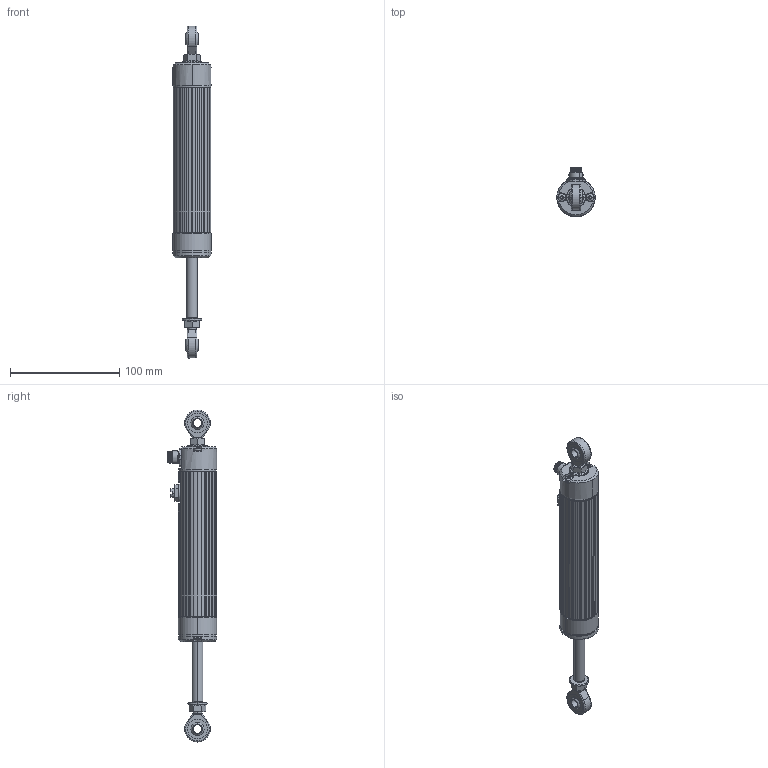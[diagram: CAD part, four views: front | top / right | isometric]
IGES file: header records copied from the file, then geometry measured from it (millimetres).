
Start section: SolidWorks IGES file using analytic representation for surfaces
Global section: file name: I:\Zeichnungen_EK-VM\ZUR BEARBEITUNG\neu_sz\LWX-001\0050.IGS; native system: SolidWorks 2009; preprocessor: SolidWorks 2009; author: salzinger; date: 090128.085942; units: millimetre
Bounding box: 35 x 45.1 x 303.6 mm (x, y, z)
Volume: 186118.3 mm3; surface area: 53483.6 mm2
Topology: 30 solids, 30 shells, 1046 faces, 5568 edges, 7235 vertices
Faces by surface type: revolution 652, plane 324, bspline 70
